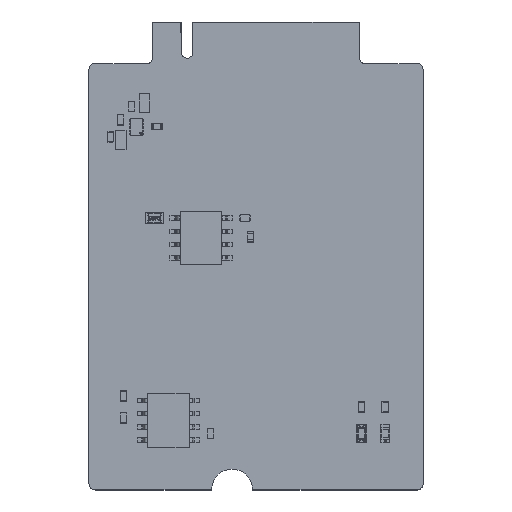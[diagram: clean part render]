
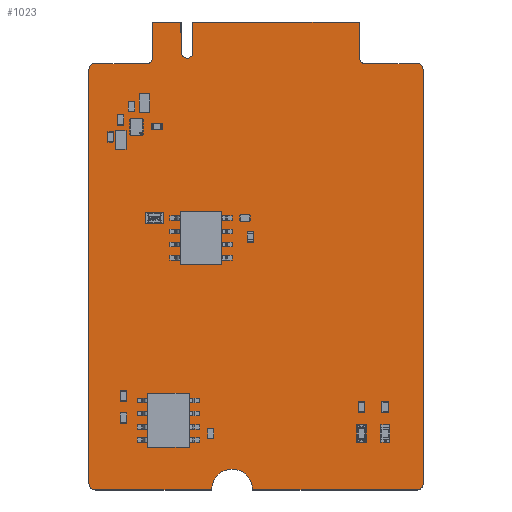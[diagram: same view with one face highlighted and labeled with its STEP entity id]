
A CAD part, top view. The second image highlights one B-rep face of the part: STEP entity #1023.
In plain terms, the highlighted planar face has unit normal (0, 0, 1).
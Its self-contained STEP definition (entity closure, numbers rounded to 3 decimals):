
#128 = VERTEX_POINT('',#129);
#129 = CARTESIAN_POINT('',(-0.011,0.543,0.796));
#135 = EDGE_CURVE('',#128,#136,#138,.T.);
#136 = VERTEX_POINT('',#137);
#137 = CARTESIAN_POINT('',(0.626,-0.094,0.796));
#138 = CIRCLE('',#139,0.635);
#139 = AXIS2_PLACEMENT_3D('',#140,#141,#142);
#140 = CARTESIAN_POINT('',(0.624,0.541,0.796));
#141 = DIRECTION('',(0.,0.,1.));
#142 = DIRECTION('',(-1.,0.003,0.));
#168 = EDGE_CURVE('',#136,#169,#171,.T.);
#169 = VERTEX_POINT('',#170);
#170 = CARTESIAN_POINT('',(11.739,-0.094,0.796));
#171 = LINE('',#172,#173);
#172 = CARTESIAN_POINT('',(0.626,-0.094,0.796));
#173 = VECTOR('',#174,1.);
#174 = DIRECTION('',(1.,0.,0.));
#199 = EDGE_CURVE('',#169,#200,#202,.T.);
#200 = VERTEX_POINT('',#201);
#201 = CARTESIAN_POINT('',(11.789,-0.044,0.796));
#202 = LINE('',#203,#204);
#203 = CARTESIAN_POINT('',(11.739,-0.094,0.796));
#204 = VECTOR('',#205,1.);
#205 = DIRECTION('',(0.707,0.707,0.));
#230 = EDGE_CURVE('',#200,#231,#233,.T.);
#231 = VERTEX_POINT('',#232);
#232 = CARTESIAN_POINT('',(15.689,-0.044,0.796));
#233 = CIRCLE('',#234,1.95);
#234 = AXIS2_PLACEMENT_3D('',#235,#236,#237);
#235 = CARTESIAN_POINT('',(13.739,-0.044,0.796));
#236 = DIRECTION('',(0.,0.,-1.));
#237 = DIRECTION('',(-1.,0.,0.));
#263 = EDGE_CURVE('',#231,#264,#266,.T.);
#264 = VERTEX_POINT('',#265);
#265 = CARTESIAN_POINT('',(15.739,-0.094,0.796));
#266 = LINE('',#267,#268);
#267 = CARTESIAN_POINT('',(15.689,-0.044,0.796));
#268 = VECTOR('',#269,1.);
#269 = DIRECTION('',(0.707,-0.707,0.));
#294 = EDGE_CURVE('',#264,#295,#297,.T.);
#295 = VERTEX_POINT('',#296);
#296 = CARTESIAN_POINT('',(31.54,-0.094,0.796));
#297 = LINE('',#298,#299);
#298 = CARTESIAN_POINT('',(15.739,-0.094,0.796));
#299 = VECTOR('',#300,1.);
#300 = DIRECTION('',(1.,0.,0.));
#325 = EDGE_CURVE('',#295,#326,#328,.T.);
#326 = VERTEX_POINT('',#327);
#327 = CARTESIAN_POINT('',(32.089,0.456,0.796));
#328 = CIRCLE('',#329,0.55);
#329 = AXIS2_PLACEMENT_3D('',#330,#331,#332);
#330 = CARTESIAN_POINT('',(31.539,0.456,0.796));
#331 = DIRECTION('',(0.,0.,1.));
#332 = DIRECTION('',(0.001,-1.,0.));
#358 = EDGE_CURVE('',#326,#359,#361,.T.);
#359 = VERTEX_POINT('',#360);
#360 = CARTESIAN_POINT('',(32.089,40.331,0.796));
#361 = LINE('',#362,#363);
#362 = CARTESIAN_POINT('',(32.089,0.456,0.796));
#363 = VECTOR('',#364,1.);
#364 = DIRECTION('',(0.,1.,0.));
#389 = EDGE_CURVE('',#359,#390,#392,.T.);
#390 = VERTEX_POINT('',#391);
#391 = CARTESIAN_POINT('',(31.539,40.881,0.796));
#392 = CIRCLE('',#393,0.55);
#393 = AXIS2_PLACEMENT_3D('',#394,#395,#396);
#394 = CARTESIAN_POINT('',(31.539,40.331,0.796));
#395 = DIRECTION('',(0.,0.,1.));
#396 = DIRECTION('',(1.,-0.001,0.));
#422 = EDGE_CURVE('',#390,#423,#425,.T.);
#423 = VERTEX_POINT('',#424);
#424 = CARTESIAN_POINT('',(26.464,40.881,0.796));
#425 = LINE('',#426,#427);
#426 = CARTESIAN_POINT('',(31.539,40.881,0.796));
#427 = VECTOR('',#428,1.);
#428 = DIRECTION('',(-1.,0.,0.));
#453 = EDGE_CURVE('',#423,#454,#456,.T.);
#454 = VERTEX_POINT('',#455);
#455 = CARTESIAN_POINT('',(26.015,41.331,0.796));
#456 = CIRCLE('',#457,0.449);
#457 = AXIS2_PLACEMENT_3D('',#458,#459,#460);
#458 = CARTESIAN_POINT('',(26.464,41.33,0.796));
#459 = DIRECTION('',(0.,0.,-1.));
#460 = DIRECTION('',(0.,-1.,0.));
#486 = EDGE_CURVE('',#454,#487,#489,.T.);
#487 = VERTEX_POINT('',#488);
#488 = CARTESIAN_POINT('',(26.015,44.831,0.796));
#489 = LINE('',#490,#491);
#490 = CARTESIAN_POINT('',(26.015,41.331,0.796));
#491 = VECTOR('',#492,1.);
#492 = DIRECTION('',(0.,1.,0.));
#517 = EDGE_CURVE('',#487,#454,#518,.T.);
#518 = LINE('',#519,#520);
#519 = CARTESIAN_POINT('',(26.015,44.831,0.796));
#520 = VECTOR('',#521,1.);
#521 = DIRECTION('',(0.,-1.,0.));
#539 = EDGE_CURVE('',#454,#540,#542,.T.);
#540 = VERTEX_POINT('',#541);
#541 = CARTESIAN_POINT('',(25.964,44.881,0.796));
#542 = LINE('',#543,#544);
#543 = CARTESIAN_POINT('',(26.015,41.331,0.796));
#544 = VECTOR('',#545,1.);
#545 = DIRECTION('',(-0.014,1.,0.));
#570 = EDGE_CURVE('',#540,#571,#573,.T.);
#571 = VERTEX_POINT('',#572);
#572 = CARTESIAN_POINT('',(10.014,44.881,0.796));
#573 = LINE('',#574,#575);
#574 = CARTESIAN_POINT('',(25.964,44.881,0.796));
#575 = VECTOR('',#576,1.);
#576 = DIRECTION('',(-1.,0.,0.));
#601 = EDGE_CURVE('',#571,#602,#604,.T.);
#602 = VERTEX_POINT('',#603);
#603 = CARTESIAN_POINT('',(9.964,44.831,0.796));
#604 = LINE('',#605,#606);
#605 = CARTESIAN_POINT('',(10.014,44.881,0.796));
#606 = VECTOR('',#607,1.);
#607 = DIRECTION('',(-0.707,-0.707,0.));
#632 = EDGE_CURVE('',#602,#633,#635,.T.);
#633 = VERTEX_POINT('',#634);
#634 = CARTESIAN_POINT('',(9.964,41.951,0.796));
#635 = LINE('',#636,#637);
#636 = CARTESIAN_POINT('',(9.964,44.831,0.796));
#637 = VECTOR('',#638,1.);
#638 = DIRECTION('',(0.,-1.,0.));
#663 = EDGE_CURVE('',#633,#664,#666,.T.);
#664 = VERTEX_POINT('',#665);
#665 = CARTESIAN_POINT('',(8.864,41.951,0.796));
#666 = CIRCLE('',#667,0.55);
#667 = AXIS2_PLACEMENT_3D('',#668,#669,#670);
#668 = CARTESIAN_POINT('',(9.414,41.951,0.796));
#669 = DIRECTION('',(0.,0.,-1.));
#670 = DIRECTION('',(1.,0.,0.));
#696 = EDGE_CURVE('',#664,#697,#699,.T.);
#697 = VERTEX_POINT('',#698);
#698 = CARTESIAN_POINT('',(8.864,44.831,0.796));
#699 = LINE('',#700,#701);
#700 = CARTESIAN_POINT('',(8.864,41.951,0.796));
#701 = VECTOR('',#702,1.);
#702 = DIRECTION('',(0.,1.,0.));
#727 = EDGE_CURVE('',#697,#664,#728,.T.);
#728 = LINE('',#729,#730);
#729 = CARTESIAN_POINT('',(8.864,44.831,0.796));
#730 = VECTOR('',#731,1.);
#731 = DIRECTION('',(0.,-1.,0.));
#749 = EDGE_CURVE('',#664,#750,#752,.T.);
#750 = VERTEX_POINT('',#751);
#751 = CARTESIAN_POINT('',(8.814,44.881,0.796));
#752 = LINE('',#753,#754);
#753 = CARTESIAN_POINT('',(8.864,41.951,0.796));
#754 = VECTOR('',#755,1.);
#755 = DIRECTION('',(-0.017,1.,0.));
#780 = EDGE_CURVE('',#750,#781,#783,.T.);
#781 = VERTEX_POINT('',#782);
#782 = CARTESIAN_POINT('',(6.114,44.881,0.796));
#783 = LINE('',#784,#785);
#784 = CARTESIAN_POINT('',(8.814,44.881,0.796));
#785 = VECTOR('',#786,1.);
#786 = DIRECTION('',(-1.,0.,0.));
#811 = EDGE_CURVE('',#781,#812,#814,.T.);
#812 = VERTEX_POINT('',#813);
#813 = CARTESIAN_POINT('',(6.064,44.831,0.796));
#814 = LINE('',#815,#816);
#815 = CARTESIAN_POINT('',(6.114,44.881,0.796));
#816 = VECTOR('',#817,1.);
#817 = DIRECTION('',(-0.707,-0.707,0.));
#842 = EDGE_CURVE('',#812,#843,#845,.T.);
#843 = VERTEX_POINT('',#844);
#844 = CARTESIAN_POINT('',(6.064,41.331,0.796));
#845 = LINE('',#846,#847);
#846 = CARTESIAN_POINT('',(6.064,44.831,0.796));
#847 = VECTOR('',#848,1.);
#848 = DIRECTION('',(0.,-1.,0.));
#873 = EDGE_CURVE('',#843,#874,#876,.T.);
#874 = VERTEX_POINT('',#875);
#875 = CARTESIAN_POINT('',(5.614,40.881,0.796));
#876 = CIRCLE('',#877,0.451);
#877 = AXIS2_PLACEMENT_3D('',#878,#879,#880);
#878 = CARTESIAN_POINT('',(5.613,41.332,0.796));
#879 = DIRECTION('',(0.,0.,-1.));
#880 = DIRECTION('',(1.,-0.002,0.));
#906 = EDGE_CURVE('',#874,#907,#909,.T.);
#907 = VERTEX_POINT('',#908);
#908 = CARTESIAN_POINT('',(0.539,40.881,0.796));
#909 = LINE('',#910,#911);
#910 = CARTESIAN_POINT('',(5.614,40.881,0.796));
#911 = VECTOR('',#912,1.);
#912 = DIRECTION('',(-1.,0.,0.));
#937 = EDGE_CURVE('',#907,#938,#940,.T.);
#938 = VERTEX_POINT('',#939);
#939 = CARTESIAN_POINT('',(-0.011,40.331,0.796));
#940 = CIRCLE('',#941,0.55);
#941 = AXIS2_PLACEMENT_3D('',#942,#943,#944);
#942 = CARTESIAN_POINT('',(0.539,40.331,0.796));
#943 = DIRECTION('',(0.,0.,1.));
#944 = DIRECTION('',(0.001,1.,-0.));
#970 = EDGE_CURVE('',#938,#128,#971,.T.);
#971 = LINE('',#972,#973);
#972 = CARTESIAN_POINT('',(-0.011,40.331,0.796));
#973 = VECTOR('',#974,1.);
#974 = DIRECTION('',(0.,-1.,0.));
#1023 = ADVANCED_FACE('',(#1024),#1054,.T.);
#1024 = FACE_BOUND('',#1025,.T.);
#1025 = EDGE_LOOP('',(#1026,#1027,#1028,#1029,#1030,#1031,#1032,#1033,
    #1034,#1035,#1036,#1037,#1038,#1039,#1040,#1041,#1042,#1043,#1044,
    #1045,#1046,#1047,#1048,#1049,#1050,#1051,#1052,#1053));
#1026 = ORIENTED_EDGE('',*,*,#135,.T.);
#1027 = ORIENTED_EDGE('',*,*,#168,.T.);
#1028 = ORIENTED_EDGE('',*,*,#199,.T.);
#1029 = ORIENTED_EDGE('',*,*,#230,.T.);
#1030 = ORIENTED_EDGE('',*,*,#263,.T.);
#1031 = ORIENTED_EDGE('',*,*,#294,.T.);
#1032 = ORIENTED_EDGE('',*,*,#325,.T.);
#1033 = ORIENTED_EDGE('',*,*,#358,.T.);
#1034 = ORIENTED_EDGE('',*,*,#389,.T.);
#1035 = ORIENTED_EDGE('',*,*,#422,.T.);
#1036 = ORIENTED_EDGE('',*,*,#453,.T.);
#1037 = ORIENTED_EDGE('',*,*,#486,.T.);
#1038 = ORIENTED_EDGE('',*,*,#517,.T.);
#1039 = ORIENTED_EDGE('',*,*,#539,.T.);
#1040 = ORIENTED_EDGE('',*,*,#570,.T.);
#1041 = ORIENTED_EDGE('',*,*,#601,.T.);
#1042 = ORIENTED_EDGE('',*,*,#632,.T.);
#1043 = ORIENTED_EDGE('',*,*,#663,.T.);
#1044 = ORIENTED_EDGE('',*,*,#696,.T.);
#1045 = ORIENTED_EDGE('',*,*,#727,.T.);
#1046 = ORIENTED_EDGE('',*,*,#749,.T.);
#1047 = ORIENTED_EDGE('',*,*,#780,.T.);
#1048 = ORIENTED_EDGE('',*,*,#811,.T.);
#1049 = ORIENTED_EDGE('',*,*,#842,.T.);
#1050 = ORIENTED_EDGE('',*,*,#873,.T.);
#1051 = ORIENTED_EDGE('',*,*,#906,.T.);
#1052 = ORIENTED_EDGE('',*,*,#937,.T.);
#1053 = ORIENTED_EDGE('',*,*,#970,.T.);
#1054 = PLANE('',#1055);
#1055 = AXIS2_PLACEMENT_3D('',#1056,#1057,#1058);
#1056 = CARTESIAN_POINT('',(15.937,24.128,0.796));
#1057 = DIRECTION('',(0.,0.,1.));
#1058 = DIRECTION('',(1.,0.,-0.));
